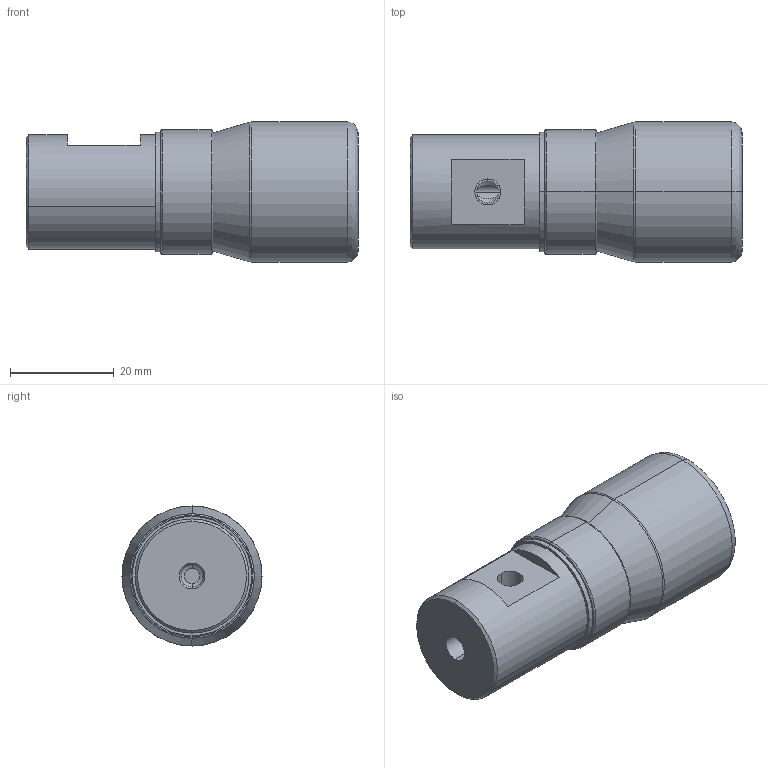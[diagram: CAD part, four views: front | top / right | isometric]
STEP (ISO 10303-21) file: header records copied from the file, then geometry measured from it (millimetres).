
FILE_DESCRIPTION( (''), '2;1');
FILE_NAME ('TGMX25.1684.RBP022RCA_22943.stp','2015-03-30T15:11:08',(''),(''),'spGate 11.3.7','spGate','');
FILE_SCHEMA (('AUTOMOTIVE_DESIGN'));
Length unit declared in the file: millimetre
Bounding box: 64 x 27 x 27 mm (x, y, z)
Volume: 27996.6 mm3; surface area: 6647 mm2
Topology: 1 solids, 1 shells, 50 faces, 109 edges, 67 vertices
Faces by surface type: bspline 20, cylinder 18, plane 12
Entity records: 2573 total; most frequent: CARTESIAN_POINT 655, ORIENTED_EDGE 218, DIRECTION 190, COLOUR_RGB 160, PRESENTATION_STYLE_ASSIGNMENT 160, STYLED_ITEM 160, EDGE_CURVE 109, DRAUGHTING_PRE_DEFINED_CURVE_FONT 109
